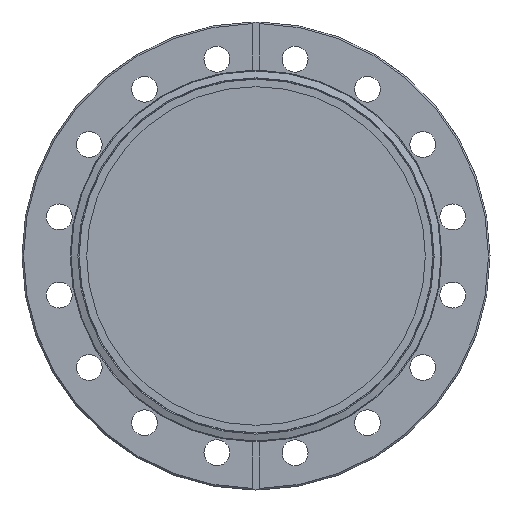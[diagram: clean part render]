
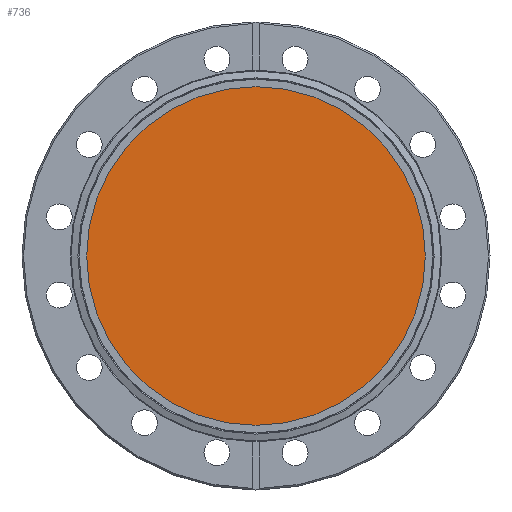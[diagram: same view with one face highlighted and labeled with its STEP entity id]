
A CAD part, front view. The second image highlights one B-rep face of the part: STEP entity #736.
In plain terms, the highlighted planar face has unit normal (0, -1, 0) as drawn and (0, 0, -1) by its records, which use the part's own axes.
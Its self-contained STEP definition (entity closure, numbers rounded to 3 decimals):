
#85=PLANE('',#826);
#101=FACE_OUTER_BOUND('',#163,.T.);
#163=EDGE_LOOP('',(#586));
#237=CIRCLE('',#825,55.);
#392=VERTEX_POINT('',#1239);
#468=EDGE_CURVE('',#392,#392,#237,.T.);
#586=ORIENTED_EDGE('',*,*,#468,.F.);
#736=ADVANCED_FACE('',(#101),#85,.T.);
#825=AXIS2_PLACEMENT_3D('',#1241,#993,#994);
#826=AXIS2_PLACEMENT_3D('',#1242,#995,#996);
#993=DIRECTION('center_axis',(0.,0.,
1.));
#994=DIRECTION('ref_axis',(0.,1.,0.));
#995=DIRECTION('center_axis',(0.,0.,
-1.));
#996=DIRECTION('ref_axis',(0.,1.,0.));
#1239=CARTESIAN_POINT('',(0.,-55.,-17.5));
#1241=CARTESIAN_POINT('Origin',(0.,0.,
-17.5));
#1242=CARTESIAN_POINT('Origin',(0.,0.,
-17.5));
